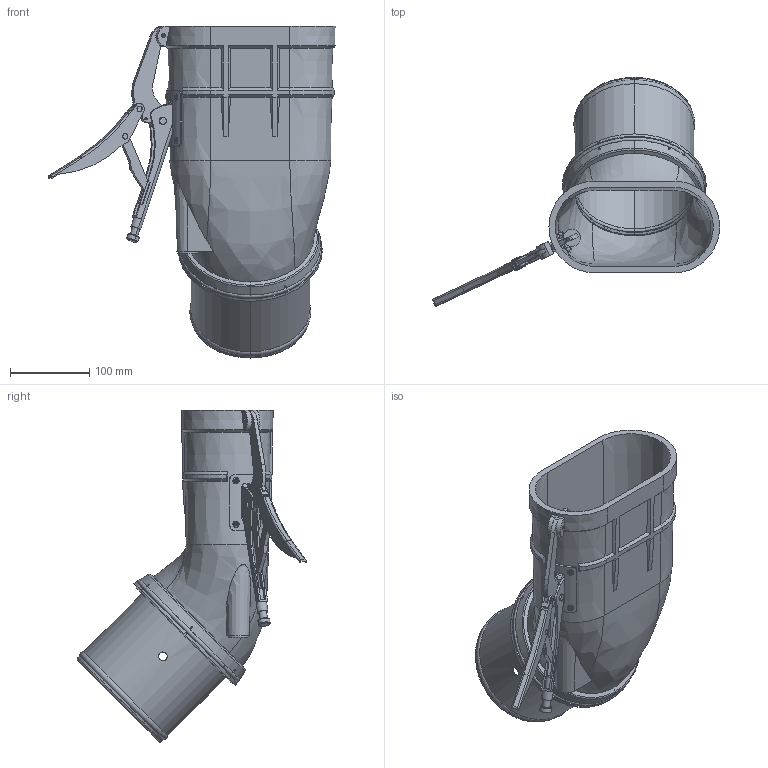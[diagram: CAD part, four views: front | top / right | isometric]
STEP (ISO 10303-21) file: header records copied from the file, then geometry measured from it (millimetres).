
FILE_DESCRIPTION((''),'2;1');
FILE_NAME('124243','2019-06-11T15:08:22',('Tomas Bellgran'),(''),'CREO PARAMETRIC BY PTC INC, 2018260','CREO PARAMETRIC BY PTC INC, 2018260','');
FILE_SCHEMA(('AUTOMOTIVE_DESIGN { 1 0 10303 214 1 1 1 1 }'));
Length unit declared in the file: millimetre
Products named in the file (11): 123944; 9531238; 145-214-1_FASTE; BOSS-EXTRUDE12; BOSS-EXTRUDE14; 145-214-2_TANG; 145-214; 145-214-4; 124209; 124214; 124243
Assembly tree (13 placements, depth 4):
  124243
    123944
    9531238
    145-214
      145-214-1_FASTE
      145-214-2_TANG
        BOSS-EXTRUDE12
        BOSS-EXTRUDE14
    145-214-4
    124209  x4
    124214
Bounding box: 363.48 x 290.18 x 419.92 mm (x, y, z)
Volume: 1134642.8 mm3; surface area: 563078.3 mm2
Topology: 11 solids, 13 shells, 562 faces, 1503 edges, 967 vertices
Faces by surface type: plane 208, cylinder 196, cone 63, torus 52, bspline 29, sphere 8, extrusion 6
Entity records: 29054 total; most frequent: CARTESIAN_POINT 9200, ORIENTED_EDGE 2852, DIRECTION 2786, EDGE_CURVE 1431, PRESENTATION_STYLE_ASSIGNMENT 1130, STYLED_ITEM 1130, CURVE_STYLE 1121, AXIS2_PLACEMENT_3D 1057
